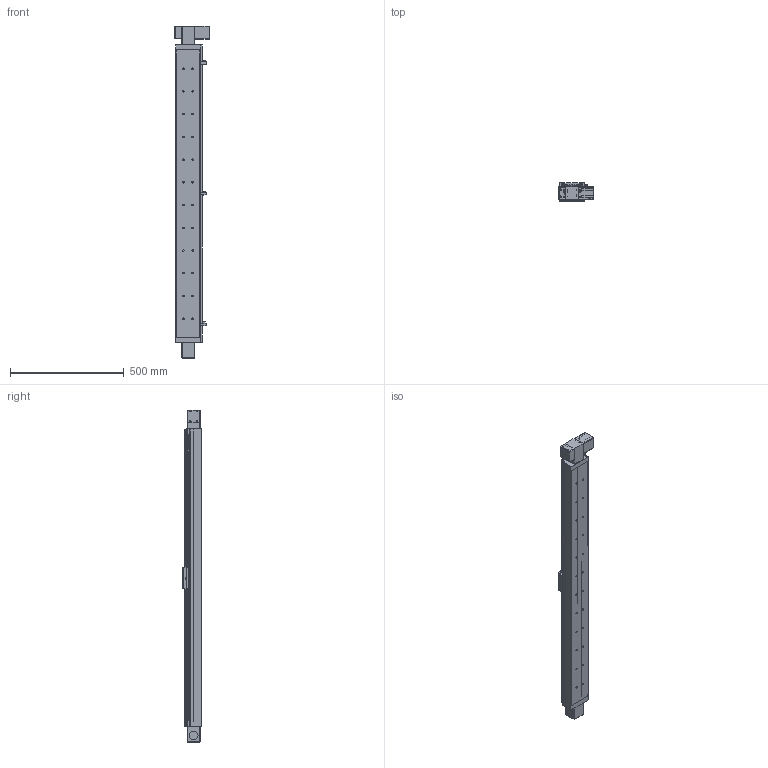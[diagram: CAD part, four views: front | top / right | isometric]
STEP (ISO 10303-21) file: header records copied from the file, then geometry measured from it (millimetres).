
FILE_DESCRIPTION((''),'2;1');
FILE_NAME('E:\uia actuator\UIA actuator 3d- 2015\Belt drive actuator\UIA110BR12(15)DC\UIA110BR12(15)DC-STEP FILE\UIA110BR12(15) stp file 13May16\UIA110BR12(15)DC-1150-M23-P13-C10-S.stp','2016-05-16T09:24:41',('h029'),(''),'Autodesk Inventor 11','Autodesk Inventor 11','');
FILE_SCHEMA(('AUTOMOTIVE_DESIGN { 1 0 10303 214 1 1 1 1 }'));
Length unit declared in the file: millimetre
Products named in the file (11): UIA110BR12(15)DC-1150; UIA110BR12(15)DC-1150-body; UIA110BR12(15)DC-1150-Sensor rail; UIA110B-Carriage; UIA110B- Sensor Flag; UIA110B-Cover; SOH-32C; SOH-32C-3; SOH-32C-1; SOH-32C-2; Motor mount
Assembly tree (10 placements, depth 3):
  UIA110BR12(15)DC-1150
    UIA110BR12(15)DC-1150-body
    UIA110BR12(15)DC-1150-Sensor rail
    UIA110B-Carriage
    UIA110B- Sensor Flag
    UIA110B-Cover
    SOH-32C
      SOH-32C-3
      SOH-32C-1
      SOH-32C-2
    Motor mount
Bounding box: 152 x 81 x 1461 mm (x, y, z)
Volume: 4326411.5 mm3; surface area: 1265016.2 mm2
Topology: 9 solids, 13 shells, 772 faces, 2170 edges, 1388 vertices
Faces by surface type: plane 479, cylinder 203, cone 42, bspline 40, sphere 8
Full cylindrical faces by diameter (mm): 2.459 x4, 3 x2, 3.242 x8, 3.5 x4, 4 x10, 4.5 x4, 4.917 x8, 5 x2, 6.35 x1, 6.5 x24, 7.5 x4, 10 x3, 11 x24, 12 x1, 20 x2, 32 x3, 37 x1, 38.1 x1, 39 x2, 43.5 x1, 46 x2
Entity records: 25978 total; most frequent: CARTESIAN_POINT 6713, DIRECTION 3939, ORIENTED_EDGE 3750, EDGE_CURVE 1875, AXIS2_PLACEMENT_3D 1360, VERTEX_POINT 1288, VECTOR 1219, LINE 1219
